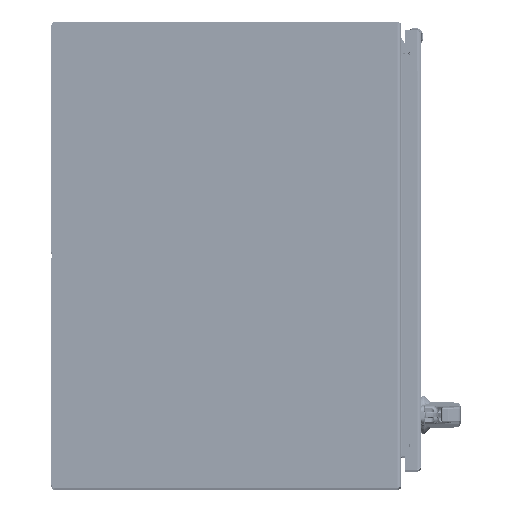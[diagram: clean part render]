
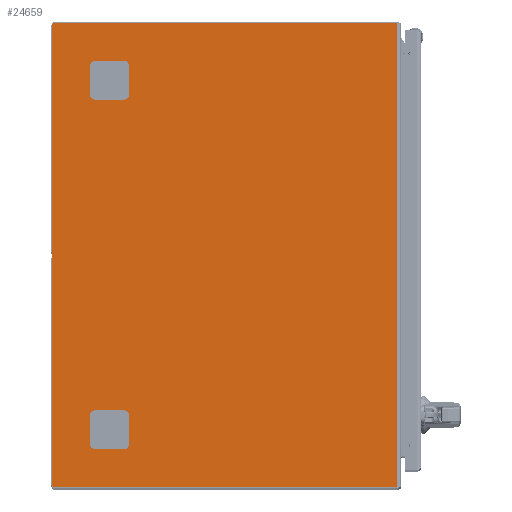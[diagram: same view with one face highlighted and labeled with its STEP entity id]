
A CAD part, top view. The second image highlights one B-rep face of the part: STEP entity #24659.
In plain terms, the highlighted planar face has unit normal (0, 0, 1) as drawn and (0, 1, 0) by its records, which use the part's own axes.
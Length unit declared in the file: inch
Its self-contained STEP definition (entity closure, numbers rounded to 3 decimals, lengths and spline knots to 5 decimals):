
#23418=CARTESIAN_POINT('',(-17.888,0.,-11.888));
#23419=DIRECTION('',(0.,1.,0.));
#23420=DIRECTION('',(0.,0.,-1.));
#23421=AXIS2_PLACEMENT_3D('',#23418,#23419,#23420);
#23426=CARTESIAN_POINT('',(-17.888,0.,11.888));
#23427=DIRECTION('',(0.,1.,0.));
#23428=DIRECTION('',(-1.,0.,0.));
#23429=AXIS2_PLACEMENT_3D('',#23426,#23427,#23428);
#23434=DIRECTION('',(0.,0.,1.));
#23435=VECTOR('',#23434,1.5);
#23436=CARTESIAN_POINT('',(-14.,0.,-9.75));
#23437=LINE('',#23436,#23435);
#23441=CARTESIAN_POINT('',(-14.25,0.,-9.75));
#23442=DIRECTION('',(0.,1.,0.));
#23443=DIRECTION('',(1.,0.,0.));
#23444=AXIS2_PLACEMENT_3D('',#23441,#23442,#23443);
#23449=DIRECTION('',(1.,0.,0.));
#23450=VECTOR('',#23449,1.5);
#23451=CARTESIAN_POINT('',(-15.75,0.,-10.));
#23452=LINE('',#23451,#23450);
#23456=CARTESIAN_POINT('',(-15.75,0.,-9.75));
#23457=DIRECTION('',(0.,1.,0.));
#23458=DIRECTION('',(0.,0.,-1.));
#23459=AXIS2_PLACEMENT_3D('',#23456,#23457,#23458);
#23464=DIRECTION('',(0.,0.,-1.));
#23465=VECTOR('',#23464,1.5);
#23466=CARTESIAN_POINT('',(-16.,0.,-8.25));
#23467=LINE('',#23466,#23465);
#23471=CARTESIAN_POINT('',(-15.75,0.,-8.25));
#23472=DIRECTION('',(0.,1.,0.));
#23473=DIRECTION('',(-1.,0.,0.));
#23474=AXIS2_PLACEMENT_3D('',#23471,#23472,#23473);
#23479=DIRECTION('',(-1.,0.,0.));
#23480=VECTOR('',#23479,1.5);
#23481=CARTESIAN_POINT('',(-14.25,0.,-8.));
#23482=LINE('',#23481,#23480);
#23486=CARTESIAN_POINT('',(-14.25,0.,-8.25));
#23487=DIRECTION('',(0.,1.,0.));
#23488=DIRECTION('',(0.,0.,1.));
#23489=AXIS2_PLACEMENT_3D('',#23486,#23487,#23488);
#23494=DIRECTION('',(0.,0.,1.));
#23495=VECTOR('',#23494,1.5);
#23496=CARTESIAN_POINT('',(-14.,0.,8.25));
#23497=LINE('',#23496,#23495);
#23501=CARTESIAN_POINT('',(-14.25,0.,8.25));
#23502=DIRECTION('',(0.,1.,0.));
#23503=DIRECTION('',(1.,0.,0.));
#23504=AXIS2_PLACEMENT_3D('',#23501,#23502,#23503);
#23509=DIRECTION('',(1.,0.,0.));
#23510=VECTOR('',#23509,1.5);
#23511=CARTESIAN_POINT('',(-15.75,0.,8.));
#23512=LINE('',#23511,#23510);
#23516=CARTESIAN_POINT('',(-15.75,0.,8.25));
#23517=DIRECTION('',(0.,1.,0.));
#23518=DIRECTION('',(0.,0.,-1.));
#23519=AXIS2_PLACEMENT_3D('',#23516,#23517,#23518);
#23524=DIRECTION('',(0.,0.,-1.));
#23525=VECTOR('',#23524,1.5);
#23526=CARTESIAN_POINT('',(-16.,0.,9.75));
#23527=LINE('',#23526,#23525);
#23531=CARTESIAN_POINT('',(-15.75,0.,9.75));
#23532=DIRECTION('',(0.,1.,0.));
#23533=DIRECTION('',(-1.,0.,0.));
#23534=AXIS2_PLACEMENT_3D('',#23531,#23532,#23533);
#23539=DIRECTION('',(-1.,0.,0.));
#23540=VECTOR('',#23539,1.5);
#23541=CARTESIAN_POINT('',(-14.25,0.,10.));
#23542=LINE('',#23541,#23540);
#23546=CARTESIAN_POINT('',(-14.25,0.,9.75));
#23547=DIRECTION('',(0.,1.,0.));
#23548=DIRECTION('',(0.,0.,1.));
#23549=AXIS2_PLACEMENT_3D('',#23546,#23547,#23548);
#23561=DIRECTION('',(0.,0.,-1.));
#23562=VECTOR('',#23561,23.776);
#23563=CARTESIAN_POINT('',(-17.948,0.,11.888));
#23564=LINE('',#23563,#23562);
#23589=DIRECTION('',(-1.,0.,0.));
#23590=VECTOR('',#23589,17.699);
#23591=CARTESIAN_POINT('',(-0.189,0.,11.948));
#23592=LINE('',#23591,#23590);
#23632=DIRECTION('',(0.,0.,1.));
#23633=VECTOR('',#23632,23.896);
#23634=CARTESIAN_POINT('',(-0.189,0.,-11.948));
#23635=LINE('',#23634,#23633);
#23740=DIRECTION('',(-1.,0.,0.));
#23741=VECTOR('',#23740,17.699);
#23742=CARTESIAN_POINT('',(-0.189,0.,-11.948));
#23743=LINE('',#23742,#23741);
#24444=CARTESIAN_POINT('',(-0.189,0.,11.948));
#24445=VERTEX_POINT('',#24444);
#24446=CARTESIAN_POINT('',(-0.189,0.,-11.948));
#24447=VERTEX_POINT('',#24446);
#24472=CARTESIAN_POINT('',(-17.888,0.,-11.948));
#24473=CARTESIAN_POINT('',(-17.948,0.,-11.888));
#24474=VERTEX_POINT('',#24472);
#24475=VERTEX_POINT('',#24473);
#24480=CARTESIAN_POINT('',(-17.948,0.,11.888));
#24481=CARTESIAN_POINT('',(-17.888,0.,11.948));
#24482=VERTEX_POINT('',#24480);
#24483=VERTEX_POINT('',#24481);
#24488=CARTESIAN_POINT('',(-14.,0.,-9.75));
#24489=CARTESIAN_POINT('',(-14.,0.,-8.25));
#24490=VERTEX_POINT('',#24488);
#24491=VERTEX_POINT('',#24489);
#24492=CARTESIAN_POINT('',(-14.25,0.,-8.));
#24493=VERTEX_POINT('',#24492);
#24494=CARTESIAN_POINT('',(-15.75,0.,-8.));
#24495=VERTEX_POINT('',#24494);
#24496=CARTESIAN_POINT('',(-16.,0.,-8.25));
#24497=VERTEX_POINT('',#24496);
#24498=CARTESIAN_POINT('',(-16.,0.,-9.75));
#24499=VERTEX_POINT('',#24498);
#24500=CARTESIAN_POINT('',(-15.75,0.,-10.));
#24501=VERTEX_POINT('',#24500);
#24502=CARTESIAN_POINT('',(-14.25,0.,-10.));
#24503=VERTEX_POINT('',#24502);
#24504=CARTESIAN_POINT('',(-14.,0.,8.25));
#24505=CARTESIAN_POINT('',(-14.,0.,9.75));
#24506=VERTEX_POINT('',#24504);
#24507=VERTEX_POINT('',#24505);
#24508=CARTESIAN_POINT('',(-14.25,0.,10.));
#24509=VERTEX_POINT('',#24508);
#24510=CARTESIAN_POINT('',(-15.75,0.,10.));
#24511=VERTEX_POINT('',#24510);
#24512=CARTESIAN_POINT('',(-16.,0.,9.75));
#24513=VERTEX_POINT('',#24512);
#24514=CARTESIAN_POINT('',(-16.,0.,8.25));
#24515=VERTEX_POINT('',#24514);
#24516=CARTESIAN_POINT('',(-15.75,0.,8.));
#24517=VERTEX_POINT('',#24516);
#24518=CARTESIAN_POINT('',(-14.25,0.,8.));
#24519=VERTEX_POINT('',#24518);
#24604=CARTESIAN_POINT('',(0.,0.,11.948));
#24605=DIRECTION('',(0.,1.,0.));
#24606=DIRECTION('',(-1.,0.,0.));
#24607=AXIS2_PLACEMENT_3D('',#24604,#24605,#24606);
#24608=PLANE('',#24607);
#24610=ORIENTED_EDGE('',*,*,#24609,.F.);
#24612=ORIENTED_EDGE('',*,*,#24611,.F.);
#24614=ORIENTED_EDGE('',*,*,#24613,.T.);
#24616=ORIENTED_EDGE('',*,*,#24615,.T.);
#24618=ORIENTED_EDGE('',*,*,#24617,.F.);
#24620=ORIENTED_EDGE('',*,*,#24619,.T.);
#24621=EDGE_LOOP('',(#24610,#24612,#24614,#24616,#24618,#24620));
#24622=FACE_OUTER_BOUND('',#24621,.F.);
#24624=ORIENTED_EDGE('',*,*,#24623,.F.);
#24626=ORIENTED_EDGE('',*,*,#24625,.T.);
#24628=ORIENTED_EDGE('',*,*,#24627,.F.);
#24630=ORIENTED_EDGE('',*,*,#24629,.T.);
#24632=ORIENTED_EDGE('',*,*,#24631,.F.);
#24634=ORIENTED_EDGE('',*,*,#24633,.T.);
#24636=ORIENTED_EDGE('',*,*,#24635,.F.);
#24638=ORIENTED_EDGE('',*,*,#24637,.T.);
#24639=EDGE_LOOP('',(#24624,#24626,#24628,#24630,#24632,#24634,#24636,#24638));
#24640=FACE_BOUND('',#24639,.F.);
#24642=ORIENTED_EDGE('',*,*,#24641,.F.);
#24644=ORIENTED_EDGE('',*,*,#24643,.T.);
#24646=ORIENTED_EDGE('',*,*,#24645,.F.);
#24648=ORIENTED_EDGE('',*,*,#24647,.T.);
#24650=ORIENTED_EDGE('',*,*,#24649,.F.);
#24652=ORIENTED_EDGE('',*,*,#24651,.T.);
#24654=ORIENTED_EDGE('',*,*,#24653,.F.);
#24656=ORIENTED_EDGE('',*,*,#24655,.T.);
#24657=EDGE_LOOP('',(#24642,#24644,#24646,#24648,#24650,#24652,#24654,#24656));
#24658=FACE_BOUND('',#24657,.F.);
#23422=CIRCLE('',#23421,0.06);
#23430=CIRCLE('',#23429,0.06);
#23445=CIRCLE('',#23444,0.25);
#23460=CIRCLE('',#23459,0.25);
#23475=CIRCLE('',#23474,0.25);
#23490=CIRCLE('',#23489,0.25);
#23505=CIRCLE('',#23504,0.25);
#23520=CIRCLE('',#23519,0.25);
#23535=CIRCLE('',#23534,0.25);
#23550=CIRCLE('',#23549,0.25);
#24609=EDGE_CURVE('',#24474,#24475,#23422,.T.);
#24611=EDGE_CURVE('',#24447,#24474,#23743,.T.);
#24613=EDGE_CURVE('',#24447,#24445,#23635,.T.);
#24615=EDGE_CURVE('',#24445,#24483,#23592,.T.);
#24617=EDGE_CURVE('',#24482,#24483,#23430,.T.);
#24619=EDGE_CURVE('',#24482,#24475,#23564,.T.);
#24623=EDGE_CURVE('',#24490,#24491,#23437,.T.);
#24625=EDGE_CURVE('',#24490,#24503,#23445,.T.);
#24627=EDGE_CURVE('',#24501,#24503,#23452,.T.);
#24629=EDGE_CURVE('',#24501,#24499,#23460,.T.);
#24631=EDGE_CURVE('',#24497,#24499,#23467,.T.);
#24633=EDGE_CURVE('',#24497,#24495,#23475,.T.);
#24635=EDGE_CURVE('',#24493,#24495,#23482,.T.);
#24637=EDGE_CURVE('',#24493,#24491,#23490,.T.);
#24641=EDGE_CURVE('',#24506,#24507,#23497,.T.);
#24643=EDGE_CURVE('',#24506,#24519,#23505,.T.);
#24645=EDGE_CURVE('',#24517,#24519,#23512,.T.);
#24647=EDGE_CURVE('',#24517,#24515,#23520,.T.);
#24649=EDGE_CURVE('',#24513,#24515,#23527,.T.);
#24651=EDGE_CURVE('',#24513,#24511,#23535,.T.);
#24653=EDGE_CURVE('',#24509,#24511,#23542,.T.);
#24655=EDGE_CURVE('',#24509,#24507,#23550,.T.);
#24659=ADVANCED_FACE('',(#24622,#24640,#24658),#24608,.T.);
